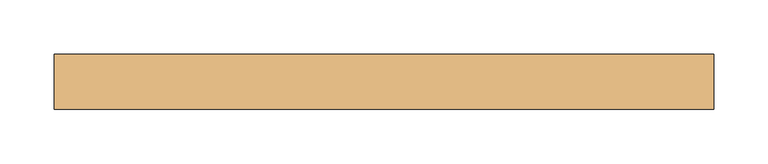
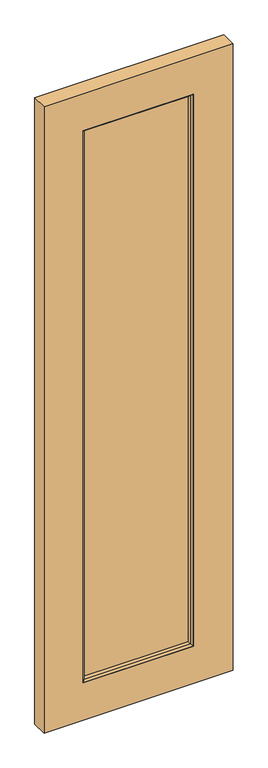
"""IFC4 building model written with IfcOpenShell, lengths in millimetres: door geometry, Planitar - Swap_Full Glass_Panel : Planitar - Swap_Full Glass_Panel."""

import ifcopenshell
import ifcopenshell.guid

model = None  # the IFC model being written
_history = None  # IfcOwnerHistory: only IFC2X3 demands one
_inside = {}  # id of a spatial element -> (the spatial element, [elements in it])
_under = {}  # id of a project, library or spatial element -> (it, [spatial elements below it])
_declared = {}  # id of a project -> (the project, [libraries it declares])
_typed = {}  # id of a type object -> (the type object, [elements of that type])
_made_of = {}  # id of a material, layer set ... -> (it, [elements and type objects made of it])


def new_model(schema):
    """Start an empty IFC model of exactly this schema.

    Asked for "IFC4X3", IfcOpenShell would pick the latest addendum, in which some entities
    have other attributes; the version numbers below select the first issue.
    IFC2X3 requires an IfcOwnerHistory on every rooted entity: one is made here for all.
    """
    global model, _history
    if schema == "IFC4X3":
        model = ifcopenshell.file(schema_version=(4, 3, 0, 0))
    else:
        model = ifcopenshell.file(schema=schema)
    _inside.clear()
    _under.clear()
    _declared.clear()
    _typed.clear()
    _made_of.clear()
    _history = None
    if model.schema == "IFC2X3":
        org = make("IfcOrganization", Name="unknown")
        user = make(
            "IfcPersonAndOrganization",
            ThePerson=make("IfcPerson", FamilyName="unknown"),
            TheOrganization=org,
        )
        app = make(
            "IfcApplication",
            ApplicationDeveloper=org,
            Version="unknown",
            ApplicationFullName="unknown",
            ApplicationIdentifier="unknown",
        )
        _history = make(
            "IfcOwnerHistory",
            OwningUser=user,
            OwningApplication=app,
            ChangeAction="ADDED",
            CreationDate=0,
        )
    return model


def make(cls, **values):
    """One entity of the class cls with the attributes given. An attribute that is None is left unset."""
    return model.create_entity(
        cls, **{name: value for name, value in values.items() if value is not None}
    )


def rooted(cls, **values):
    """An entity with a GlobalId (a new one), such as an element, a storey or a relation."""
    return make(cls, GlobalId=ifcopenshell.guid.new(), OwnerHistory=_history, **values)


def si_unit(unit_type, name, prefix=None):
    """IfcSIUnit, for example si_unit("LENGTHUNIT", "METRE", prefix="MILLI")."""
    return make("IfcSIUnit", UnitType=unit_type, Prefix=prefix, Name=name)


def assignment(units):
    """IfcUnitAssignment: the units of a project."""
    return None if units is None else make("IfcUnitAssignment", Units=units)


def point(xyz):
    """IfcCartesianPoint."""
    return None if xyz is None else make("IfcCartesianPoint", Coordinates=xyz)


def direction(xyz):
    """IfcDirection."""
    return None if xyz is None else make("IfcDirection", DirectionRatios=xyz)


def frame(location, z_axis=None, x_axis=None):
    """IfcAxis2Placement3D, a coordinate frame: its origin and axes. An axis left out is left unset."""
    return make(
        "IfcAxis2Placement3D",
        Location=point(location),
        Axis=direction(z_axis),
        RefDirection=direction(x_axis),
    )


def origin():
    """The frame at (0, 0, 0) with its axes left unset."""
    return frame((0.0, 0.0, 0.0))


def place(relative_to, where):
    """IfcLocalPlacement: puts the frame where relative to a parent placement (None: the world)."""
    return make(
        "IfcLocalPlacement", PlacementRelTo=relative_to, RelativePlacement=where
    )


def context(
    kind, dimensions, precision=None, world=None, true_north=None, identifier=None
):
    """IfcGeometricRepresentationContext, for example the 3D "Model" context."""
    return make(
        "IfcGeometricRepresentationContext",
        ContextIdentifier=identifier,
        ContextType=kind,
        CoordinateSpaceDimension=dimensions,
        Precision=precision,
        WorldCoordinateSystem=world,
        TrueNorth=true_north,
    )


def project(units=None, contexts=None):
    """IfcProject with its units and contexts."""
    return rooted(
        "IfcProject",
        Name="project",
        RepresentationContexts=contexts,
        UnitsInContext=assignment(units),
    )


def spatial(cls, under=None, at=None, **own):
    """A site, building, storey or space (cls), placed at a placement, below another one or the project."""
    s = rooted(cls, ObjectPlacement=at, **own)
    if under is not None:
        _under.setdefault(under.id(), (under, []))[1].append(s)
    return s


def polyline(points):
    """IfcPolyline through the points."""
    return make("IfcPolyline", Points=[point(p) for p in points])


def outline(outer, holes=None, kind="AREA"):
    """IfcArbitraryClosedProfileDef: a profile drawn as a closed curve; with holes, ...WithVoids."""
    if holes is None:
        return make("IfcArbitraryClosedProfileDef", ProfileType=kind, OuterCurve=outer)
    return make(
        "IfcArbitraryProfileDefWithVoids",
        ProfileType=kind,
        OuterCurve=outer,
        InnerCurves=holes,
    )


def extrude(swept, where, along, depth):
    """IfcExtrudedAreaSolid: the profile swept, set in the frame where, extruded along a direction by depth."""
    return make(
        "IfcExtrudedAreaSolid",
        SweptArea=swept,
        Position=where,
        ExtrudedDirection=direction(along),
        Depth=depth,
    )


def faces_of(points, faces, orient=None, outer=None):
    """IfcFace entities. A face is a list of loops; a loop is a list of indices into points, from 0.

    orient and outer hold one flag for each loop. By default every Orientation is true, the
    first loop of a face is its IfcFaceOuterBound and the others are IfcFaceBound.
    """
    made = []
    for i, loops in enumerate(faces):
        bounds = []
        for j, loop in enumerate(loops):
            is_outer = j == 0 if outer is None else outer[i][j]
            bounds.append(
                make(
                    "IfcFaceOuterBound" if is_outer else "IfcFaceBound",
                    Bound=make("IfcPolyLoop", Polygon=[points[k] for k in loop]),
                    Orientation=True if orient is None else orient[i][j],
                )
            )
        made.append(make("IfcFace", Bounds=bounds))
    return made


def faceted_brep(points, faces, orient=None, outer=None, voids=None):
    """IfcFacetedBrep: a solid bounded by flat faces; with voids (closed shells), ...WithVoids."""
    shared = [point(p) for p in points]
    hull = make("IfcClosedShell", CfsFaces=faces_of(shared, faces, orient, outer))
    if voids is None:
        return make("IfcFacetedBrep", Outer=hull)
    return make(
        "IfcFacetedBrepWithVoids",
        Outer=hull,
        Voids=[
            make(cls, CfsFaces=faces_of(shared, fs, o, b)) for cls, fs, o, b in voids
        ],
    )


def shape(context_of_items, identifier, shape_type, items):
    """IfcShapeRepresentation: the items that make up one representation, for example the "Body"."""
    return make(
        "IfcShapeRepresentation",
        ContextOfItems=context_of_items,
        RepresentationIdentifier=identifier,
        RepresentationType=shape_type,
        Items=items,
    )


def source(mapping_origin, context_of_items, identifier, shape_type, items):
    """IfcRepresentationMap: a shape defined once, which mapped items show again and again."""
    return make(
        "IfcRepresentationMap",
        MappingOrigin=mapping_origin,
        MappedRepresentation=shape(context_of_items, identifier, shape_type, items),
    )


def transform(
    local_origin,
    x_axis=None,
    y_axis=None,
    z_axis=None,
    scale=None,
    scale2=None,
    scale3=None,
    uniform=True,
):
    """IfcCartesianTransformationOperator3D, or its non-uniform kind. x_axis, y_axis, z_axis: its Axis1, 2, 3."""
    if uniform:
        return make(
            "IfcCartesianTransformationOperator3D",
            Axis1=direction(x_axis),
            Axis2=direction(y_axis),
            LocalOrigin=point(local_origin),
            Scale=scale,
            Axis3=direction(z_axis),
        )
    return make(
        "IfcCartesianTransformationOperator3DnonUniform",
        Axis1=direction(x_axis),
        Axis2=direction(y_axis),
        LocalOrigin=point(local_origin),
        Scale=scale,
        Axis3=direction(z_axis),
        Scale2=scale2,
        Scale3=scale3,
    )


def mapped(mapping_source, mapping_target):
    """IfcMappedItem: shows the shape of a source again, moved by a transform."""
    return make(
        "IfcMappedItem", MappingSource=mapping_source, MappingTarget=mapping_target
    )


def made_of(thing, what):
    """Note that an element or type object is made of a material, layer set ...; save() writes the relation."""
    if what is not None:
        _made_of.setdefault(what.id(), (what, []))[1].append(thing)
    return thing


def element(
    cls,
    number,
    at=None,
    inside=None,
    cuts=None,
    type_object=None,
    material=None,
    context=None,
    identifier="Body",
    shape_type=None,
    held_by="IfcProductDefinitionShape",
    body=None,
    shapes=None,
    **own,
):
    """One element of the class cls, such as IfcWall. Its Tag is "e" and its number.

    at: its placement. inside: the storey or other place that contains it. cuts: it is an
    opening in that element (IfcRelVoidsElement). A single representation is given by context,
    identifier, shape_type and body (its items); several are given by shapes. held_by: the class
    of the entity that holds the representations. save() writes the other relations.
    """
    e = rooted(cls, Tag="e%d" % number, ObjectPlacement=at, **own)
    if body is not None:
        shapes = [shape(context, identifier, shape_type, body)]
    if shapes is not None:
        e.Representation = make(held_by, Representations=shapes)
    if inside is not None:
        _inside.setdefault(inside.id(), (inside, []))[1].append(e)
    if cuts is not None:
        rooted(
            "IfcRelVoidsElement", RelatingBuildingElement=cuts, RelatedOpeningElement=e
        )
    if type_object is not None:
        _typed.setdefault(type_object.id(), (type_object, []))[1].append(e)
    return made_of(e, material)


def aggregate(whole, parts):
    """IfcRelAggregates: a whole, such as a stair, and the parts it consists of."""
    return rooted("IfcRelAggregates", RelatingObject=whole, RelatedObjects=parts)


def save(model, path):
    """Write the relations noted so far, then the file.

    IfcRelAggregates (storeys below a building ...), IfcRelContainedInSpatialStructure (elements
    in a storey), IfcRelDefinesByType, IfcRelAssociatesMaterial and IfcRelDeclares: one each for
    every whole, place, type object, material and project.
    """
    for whole, parts in _under.values():
        aggregate(whole, parts)
    for where, things in _inside.values():
        rooted(
            "IfcRelContainedInSpatialStructure",
            RelatedElements=things,
            RelatingStructure=where,
        )
    for kind, things in _typed.values():
        rooted("IfcRelDefinesByType", RelatedObjects=things, RelatingType=kind)
    for what, things in _made_of.values():
        rooted("IfcRelAssociatesMaterial", RelatedObjects=things, RelatingMaterial=what)
    for by, libraries in _declared.values():
        rooted("IfcRelDeclares", RelatingContext=by, RelatedDefinitions=libraries)
    model.write(path)


def door_60dcc4f9(model_context):
    return source(origin(), model_context, "Body", "SolidModel", [
        extrude(outline(polyline([(2133.6, 304.8), (2133.6, -304.8), (0.0, -304.8), (0.0, 304.8), (2133.6, 304.8)]), holes=[polyline([(127.0, 177.8), (127.0, -177.8), (2006.6, -177.8), (2006.6, 177.8), (127.0, 177.8)])]), frame((0.0, -25.4, 0.0), z_axis=(0.0, 1.0, 0.0), x_axis=(0.0, 0.0, 1.0)), (0.0, 0.0, 1.0), 50.8),
        extrude(outline(polyline([(171.45, -6.35), (-171.45, -6.35), (-171.45, 6.35), (171.45, 6.35), (171.45, -6.35)])), frame((0.0, 0.0, 133.35), z_axis=(0.0, 0.0, 1.0), x_axis=(1.0, 0.0, 0.0)), (0.0, 0.0, 1.0), 1866.9),
        faceted_brep([(171.45, 19.05, 133.35), (177.8, 25.4, 127.0), (-177.8, 25.4, 127.0), (-171.45, 19.05, 133.35), (-177.8, 25.4, 2006.6), (-171.45, 19.05, 2000.25), (-177.8, -25.4, 127.0), (-177.8, -25.4, 2006.6), (-171.45, -19.05, 2000.25), (-171.45, -19.05, 133.35), (171.45, -19.05, 133.35), (177.8, -25.4, 127.0), (171.45, 19.05, 2000.25), (177.8, 25.4, 2006.6), (177.8, -25.4, 2006.6), (171.45, -19.05, 2000.25)], [[[0, 1, 2, 3]], [[3, 2, 4, 5]], [[2, 6, 7, 4]], [[3, 5, 8, 9]], [[6, 9, 8, 7]], [[10, 0, 3, 9]], [[11, 10, 9, 6]], [[1, 11, 6, 2]], [[12, 13, 1, 0]], [[13, 14, 11, 1]], [[15, 12, 0, 10]], [[14, 15, 10, 11]], [[5, 4, 13, 12]], [[8, 5, 12, 15]], [[7, 8, 15, 14]], [[4, 7, 14, 13]]]),
    ])


if __name__ == "__main__":
    model = new_model("IFC4")
    model_context = context("Model", 3, world=origin())
    ifc_project = project(units=[si_unit("LENGTHUNIT", "METRE", prefix="MILLI")], contexts=[model_context])
    site = spatial("IfcSite", under=ifc_project)
    building = spatial("IfcBuilding", under=site)
    placement = place(None, origin())
    door_shape = door_60dcc4f9(model_context)
    element("IfcDoor", 1, ObjectType="Planitar - Swap_Full Glass_Panel : Planitar - Swap_Full Glass_Panel", at=placement, inside=building, context=model_context, shape_type="MappedRepresentation", body=[
        mapped(door_shape, transform((0.0, 0.0, 0.0), x_axis=(1.0, 0.0, 0.0), y_axis=(0.0, 1.0, 0.0), z_axis=(0.0, 0.0, 1.0))),
    ])
    save(model, "model.ifc")
